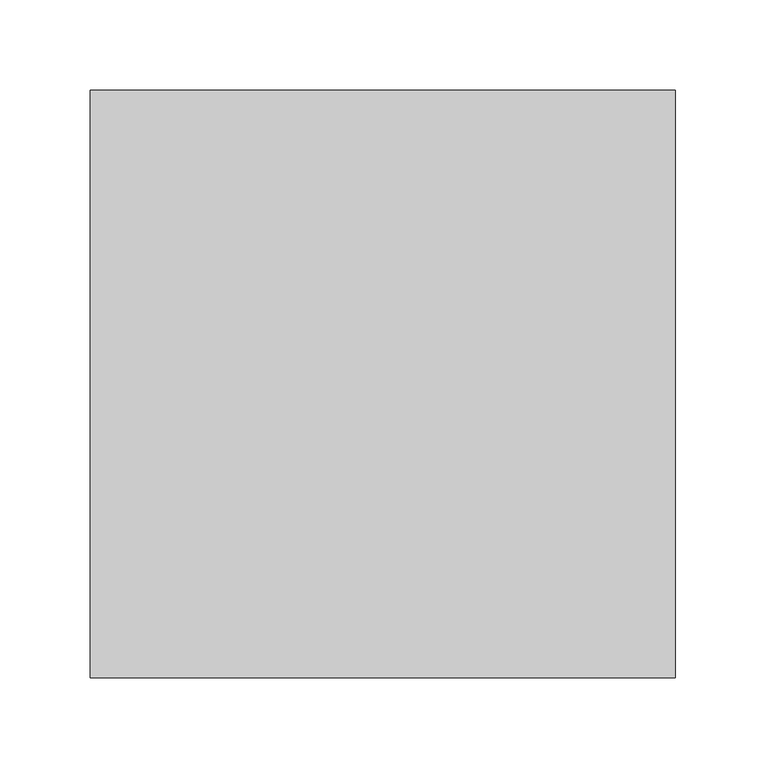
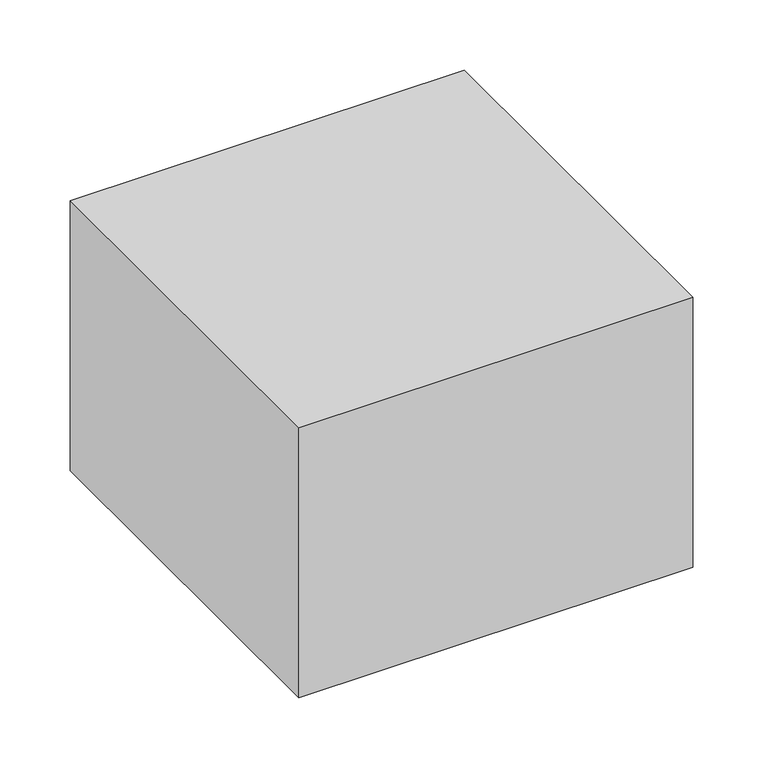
"""IFC4 building model written with IfcOpenShell, lengths in millimetres: column geometry, Column Encasement7 : Column Encasement."""

from ifc_helpers import new_model, si_unit, frame, origin, place, context, project, spatial, polyline, outline, extrude, source, transform, mapped, element, save


def column_413a78d8(model_context):
    return source(origin(), model_context, "Body", "SweptSolid", [
        extrude(outline(polyline([(-29254.1090062, 11638.3565859), (-29254.1090062, 11964.0093679), (-28929.7652152, 11964.0093679), (-28929.7652152, 11638.3565859), (-29254.1090062, 11638.3565859)])), frame((0.0, 0.0, 7.0), z_axis=(0.0, 0.0, 1.0), x_axis=(1.0, 0.0, 0.0)), (0.0, 0.0, 1.0), 235.0),
    ])


if __name__ == "__main__":
    model = new_model("IFC4")
    model_context = context("Model", 3, world=origin())
    ifc_project = project(units=[si_unit("LENGTHUNIT", "METRE", prefix="MILLI")], contexts=[model_context])
    site = spatial("IfcSite", under=ifc_project)
    building = spatial("IfcBuilding", under=site)
    placement = place(None, origin())
    column_shape = column_413a78d8(model_context)
    element("IfcColumn", 1, ObjectType="Column Encasement7 : Column Encasement", at=placement, inside=building, context=model_context, shape_type="MappedRepresentation", body=[
        mapped(column_shape, transform((0.0, 0.0, 0.0), x_axis=(1.0, 0.0, 0.0), y_axis=(0.0, 1.0, 0.0), z_axis=(0.0, 0.0, 1.0))),
    ])
    save(model, "model.ifc")
